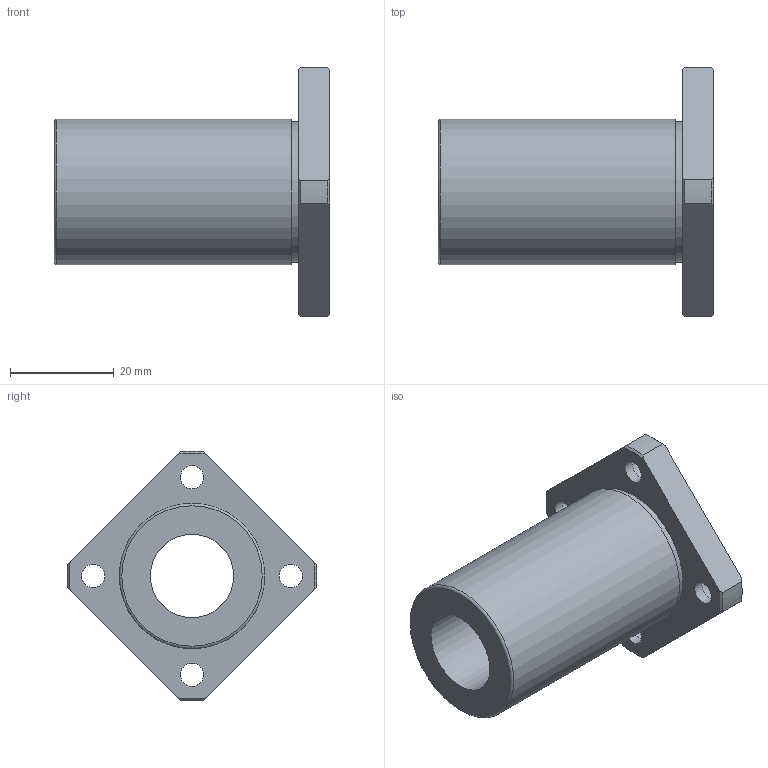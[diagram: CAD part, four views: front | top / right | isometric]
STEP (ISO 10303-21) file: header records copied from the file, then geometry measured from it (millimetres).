
FILE_DESCRIPTION(('STEP AP203'),'1');
FILE_NAME('//192.168.1.1/share/s-4 技術開発/s-4-4_CAD/s-4-4-3_見直し済み/002 修正済み/NFES-VM(済)/NFES-VM_TOP/NFES-16VM.step','2022-03-08T01:16:16',(' '),(' '),'Spatial InterOp 3D',' ',' ');
FILE_SCHEMA(('CONFIG_CONTROL_DESIGN'));
Length unit declared in the file: millimetre
Products named in the file (1): 1
Bounding box: 53 x 47.98 x 47.98 mm (x, y, z)
Volume: 25468.5 mm3; surface area: 10358.3 mm2
Topology: 1 solids, 1 shells, 36 faces, 91 edges, 63 vertices
Faces by surface type: cylinder 15, plane 12, cone 8, torus 1
Full cylindrical faces by diameter (mm): 4.5 x4, 7.5 x4, 16 x1, 27 x1, 28 x1
Entity records: 1026 total; most frequent: CARTESIAN_POINT 195, DIRECTION 168, ORIENTED_EDGE 142, AXIS2_PLACEMENT_3D 76, EDGE_CURVE 71, EDGE_LOOP 64, VERTEX_POINT 55, FACE_OUTER_BOUND 48
